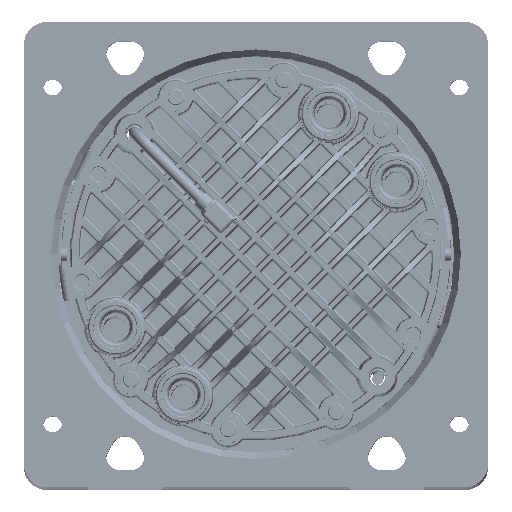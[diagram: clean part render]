
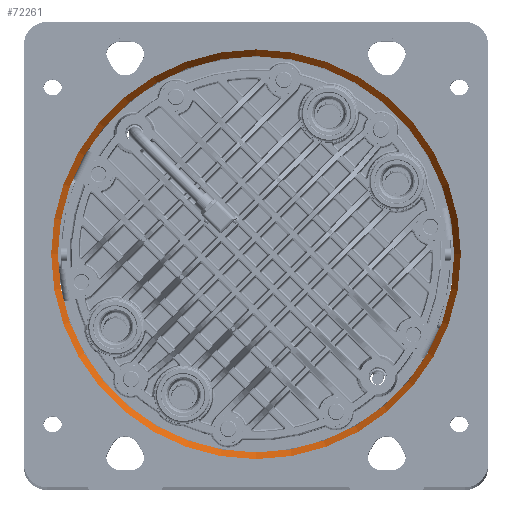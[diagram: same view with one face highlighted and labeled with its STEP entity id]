
A CAD part, top view. The second image highlights one B-rep face of the part: STEP entity #72261.
In plain terms, the highlighted conical face has half-angle 30 degrees and reference radius 216.662 mm.
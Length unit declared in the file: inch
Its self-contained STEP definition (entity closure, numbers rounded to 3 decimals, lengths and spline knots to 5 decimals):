
#19973 = CIRCLE ( 'NONE', #284037, 8.53 ) ;
#52468 = CARTESIAN_POINT ( 'NONE',  ( 0., 0., 0.5 ) ) ;
#52471 = DIRECTION ( 'NONE',  ( 0., 0., -1. ) ) ;
#52474 = DIRECTION ( 'NONE',  ( -1., 0., 0. ) ) ;
#72261 = ADVANCED_FACE ( 'NONE', ( #258037, #258042 ), #258046, .F. ) ;
#102658 = AXIS2_PLACEMENT_3D ( 'NONE', #141732, #141735, #141738 ) ;
#108642 = EDGE_CURVE ( 'NONE', #167775, #167775, #19973, .T. ) ;
#119787 = EDGE_CURVE ( 'NONE', #171567, #171567, #131125, .T. ) ;
#127024 = DIRECTION ( 'NONE',  ( -1., 0., 0. ) ) ;
#127180 = CARTESIAN_POINT ( 'NONE',  ( 0., 0., 0.5 ) ) ;
#128207 = DIRECTION ( 'NONE',  ( 0., 0., -1. ) ) ;
#131125 = CIRCLE ( 'NONE', #102658, 8.81868 ) ;
#141732 = CARTESIAN_POINT ( 'NONE',  ( 0., 0., 0. ) ) ;
#141735 = DIRECTION ( 'NONE',  ( 0., 0., -1. ) ) ;
#141738 = DIRECTION ( 'NONE',  ( -1., 0., 0. ) ) ;
#164639 = CARTESIAN_POINT ( 'NONE',  ( -8.53, 0., 0.5 ) ) ;
#167775 = VERTEX_POINT ( 'NONE', #164639 ) ;
#171567 = VERTEX_POINT ( 'NONE', #173696 ) ;
#173696 = CARTESIAN_POINT ( 'NONE',  ( -8.81868, 0., 0. ) ) ;
#219313 = ORIENTED_EDGE ( 'NONE', *, *, #119787, .T. ) ;
#219319 = ORIENTED_EDGE ( 'NONE', *, *, #108642, .F. ) ;
#243239 = EDGE_LOOP ( 'NONE', ( #219319 ) ) ;
#243241 = EDGE_LOOP ( 'NONE', ( #219313 ) ) ;
#258037 = FACE_OUTER_BOUND ( 'NONE', #243241, .T. ) ;
#258042 = FACE_BOUND ( 'NONE', #243239, .T. ) ;
#258046 = CONICAL_SURFACE ( 'NONE', #273096, 8.53, 0.524 ) ;
#273096 = AXIS2_PLACEMENT_3D ( 'NONE', #127180, #128207, #127024 ) ;
#284037 = AXIS2_PLACEMENT_3D ( 'NONE', #52468, #52471, #52474 ) ;
